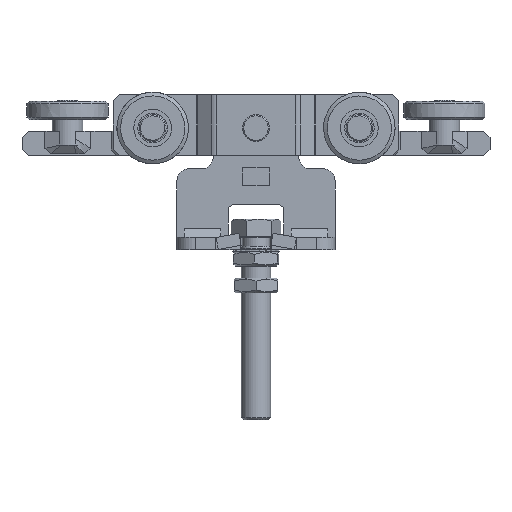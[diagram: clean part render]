
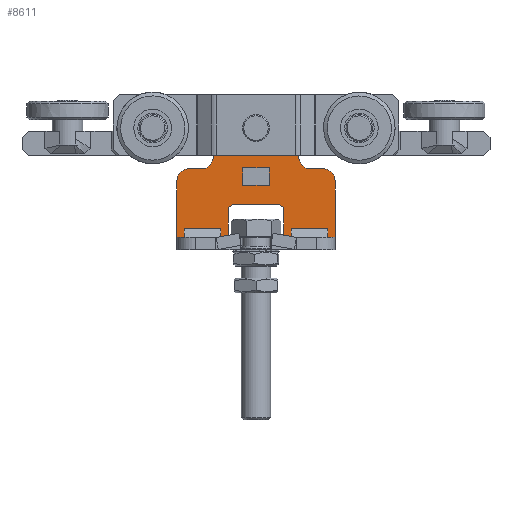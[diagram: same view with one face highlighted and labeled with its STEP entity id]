
A CAD part, front view. The second image highlights one B-rep face of the part: STEP entity #8611.
In plain terms, the highlighted planar face has unit normal (0, -1, 0) as drawn and (0, 0, 1) by its records, which use the part's own axes.
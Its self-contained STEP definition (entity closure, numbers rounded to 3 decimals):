
#342=FACE_BOUND('',#1731,.T.);
#343=FACE_BOUND('',#1732,.T.);
#623=CIRCLE('',#9171,8.65);
#625=CIRCLE('',#9174,90.);
#627=CIRCLE('',#9178,10.);
#629=CIRCLE('',#9182,10.);
#631=CIRCLE('',#9190,5.);
#633=CIRCLE('',#9194,5.);
#635=CIRCLE('',#9202,10.);
#637=CIRCLE('',#9206,10.);
#1200=FACE_OUTER_BOUND('',#1730,.T.);
#1730=EDGE_LOOP('',(#6220,#6221,#6222,#6223,#6224,#6225,#6226,#6227,#6228,
#6229,#6230,#6231,#6232,#6233,#6234,#6235,#6236,#6237,#6238,#6239,#6240,
#6241));
#1731=EDGE_LOOP('',(#6242,#6243,#6244,#6245));
#1732=EDGE_LOOP('',(#6246));
#2384=LINE('',#13075,#3123);
#2388=LINE('',#13083,#3127);
#2391=LINE('',#13089,#3130);
#2394=LINE('',#13094,#3133);
#2398=LINE('',#13113,#3137);
#2402=LINE('',#13125,#3141);
#2406=LINE('',#13137,#3145);
#2409=LINE('',#13143,#3148);
#2412=LINE('',#13149,#3151);
#2415=LINE('',#13155,#3154);
#2418=LINE('',#13161,#3157);
#2422=LINE('',#13173,#3161);
#2426=LINE('',#13185,#3165);
#2429=LINE('',#13191,#3168);
#2432=LINE('',#13197,#3171);
#2435=LINE('',#13203,#3174);
#2438=LINE('',#13209,#3177);
#2442=LINE('',#13221,#3181);
#2446=LINE('',#13232,#3185);
#3123=VECTOR('',#10381,14.5);
#3127=VECTOR('',#10387,22.);
#3130=VECTOR('',#10392,14.5);
#3133=VECTOR('',#10397,22.);
#3137=VECTOR('',#10417,43.416);
#3141=VECTOR('',#10429,10.);
#3145=VECTOR('',#10441,46.5);
#3148=VECTOR('',#10446,12.);
#3151=VECTOR('',#10451,10.);
#3154=VECTOR('',#10456,30.);
#3157=VECTOR('',#10461,32.);
#3161=VECTOR('',#10473,36.);
#3165=VECTOR('',#10485,32.);
#3168=VECTOR('',#10490,30.);
#3171=VECTOR('',#10495,10.);
#3174=VECTOR('',#10500,12.);
#3177=VECTOR('',#10505,46.5);
#3181=VECTOR('',#10517,10.);
#3185=VECTOR('',#10529,43.416);
#3831=VERTEX_POINT('',#13073);
#3832=VERTEX_POINT('',#13074);
#3835=VERTEX_POINT('',#13082);
#3837=VERTEX_POINT('',#13088);
#3839=VERTEX_POINT('',#13098);
#3841=VERTEX_POINT('',#13103);
#3842=VERTEX_POINT('',#13104);
#3845=VERTEX_POINT('',#13112);
#3847=VERTEX_POINT('',#13118);
#3849=VERTEX_POINT('',#13124);
#3851=VERTEX_POINT('',#13130);
#3853=VERTEX_POINT('',#13136);
#3855=VERTEX_POINT('',#13142);
#3857=VERTEX_POINT('',#13148);
#3859=VERTEX_POINT('',#13154);
#3861=VERTEX_POINT('',#13160);
#3863=VERTEX_POINT('',#13166);
#3865=VERTEX_POINT('',#13172);
#3867=VERTEX_POINT('',#13178);
#3869=VERTEX_POINT('',#13184);
#3871=VERTEX_POINT('',#13190);
#3873=VERTEX_POINT('',#13196);
#3875=VERTEX_POINT('',#13202);
#3877=VERTEX_POINT('',#13208);
#3879=VERTEX_POINT('',#13214);
#3881=VERTEX_POINT('',#13220);
#3883=VERTEX_POINT('',#13226);
#4708=EDGE_CURVE('',#3831,#3832,#2384,.T.);
#4712=EDGE_CURVE('',#3835,#3831,#2388,.T.);
#4715=EDGE_CURVE('',#3837,#3835,#2391,.T.);
#4718=EDGE_CURVE('',#3832,#3837,#2394,.T.);
#4720=EDGE_CURVE('',#3839,#3839,#623,.T.);
#4722=EDGE_CURVE('',#3841,#3842,#625,.T.);
#4726=EDGE_CURVE('',#3842,#3845,#2398,.T.);
#4729=EDGE_CURVE('',#3845,#3847,#627,.T.);
#4732=EDGE_CURVE('',#3847,#3849,#2402,.T.);
#4735=EDGE_CURVE('',#3849,#3851,#629,.T.);
#4738=EDGE_CURVE('',#3851,#3853,#2406,.T.);
#4741=EDGE_CURVE('',#3853,#3855,#2409,.T.);
#4744=EDGE_CURVE('',#3855,#3857,#2412,.T.);
#4747=EDGE_CURVE('',#3857,#3859,#2415,.T.);
#4750=EDGE_CURVE('',#3859,#3861,#2418,.T.);
#4753=EDGE_CURVE('',#3861,#3863,#631,.T.);
#4756=EDGE_CURVE('',#3863,#3865,#2422,.T.);
#4759=EDGE_CURVE('',#3865,#3867,#633,.T.);
#4762=EDGE_CURVE('',#3867,#3869,#2426,.T.);
#4765=EDGE_CURVE('',#3869,#3871,#2429,.T.);
#4768=EDGE_CURVE('',#3871,#3873,#2432,.T.);
#4771=EDGE_CURVE('',#3873,#3875,#2435,.T.);
#4774=EDGE_CURVE('',#3875,#3877,#2438,.T.);
#4777=EDGE_CURVE('',#3877,#3879,#635,.T.);
#4780=EDGE_CURVE('',#3879,#3881,#2442,.T.);
#4783=EDGE_CURVE('',#3881,#3883,#637,.T.);
#4786=EDGE_CURVE('',#3883,#3841,#2446,.T.);
#6220=ORIENTED_EDGE('',*,*,#4722,.F.);
#6221=ORIENTED_EDGE('',*,*,#4786,.F.);
#6222=ORIENTED_EDGE('',*,*,#4783,.F.);
#6223=ORIENTED_EDGE('',*,*,#4780,.F.);
#6224=ORIENTED_EDGE('',*,*,#4777,.F.);
#6225=ORIENTED_EDGE('',*,*,#4774,.F.);
#6226=ORIENTED_EDGE('',*,*,#4771,.F.);
#6227=ORIENTED_EDGE('',*,*,#4768,.F.);
#6228=ORIENTED_EDGE('',*,*,#4765,.F.);
#6229=ORIENTED_EDGE('',*,*,#4762,.F.);
#6230=ORIENTED_EDGE('',*,*,#4759,.F.);
#6231=ORIENTED_EDGE('',*,*,#4756,.F.);
#6232=ORIENTED_EDGE('',*,*,#4753,.F.);
#6233=ORIENTED_EDGE('',*,*,#4750,.F.);
#6234=ORIENTED_EDGE('',*,*,#4747,.F.);
#6235=ORIENTED_EDGE('',*,*,#4744,.F.);
#6236=ORIENTED_EDGE('',*,*,#4741,.F.);
#6237=ORIENTED_EDGE('',*,*,#4738,.F.);
#6238=ORIENTED_EDGE('',*,*,#4735,.F.);
#6239=ORIENTED_EDGE('',*,*,#4732,.F.);
#6240=ORIENTED_EDGE('',*,*,#4729,.F.);
#6241=ORIENTED_EDGE('',*,*,#4726,.F.);
#6242=ORIENTED_EDGE('',*,*,#4708,.T.);
#6243=ORIENTED_EDGE('',*,*,#4718,.T.);
#6244=ORIENTED_EDGE('',*,*,#4715,.T.);
#6245=ORIENTED_EDGE('',*,*,#4712,.T.);
#6246=ORIENTED_EDGE('',*,*,#4720,.T.);
#8291=PLANE('',#9210);
#8611=ADVANCED_FACE('',(#1200,#342,#343),#8291,.T.);
#9171=AXIS2_PLACEMENT_3D('',#13099,#10403,#10404);
#9174=AXIS2_PLACEMENT_3D('',#13105,#10409,#10410);
#9178=AXIS2_PLACEMENT_3D('',#13119,#10422,#10423);
#9182=AXIS2_PLACEMENT_3D('',#13131,#10434,#10435);
#9190=AXIS2_PLACEMENT_3D('',#13167,#10466,#10467);
#9194=AXIS2_PLACEMENT_3D('',#13179,#10478,#10479);
#9202=AXIS2_PLACEMENT_3D('',#13215,#10510,#10511);
#9206=AXIS2_PLACEMENT_3D('',#13227,#10522,#10523);
#9210=AXIS2_PLACEMENT_3D('',#13235,#10533,#10534);
#10381=DIRECTION('',(0.,-1.,0.));
#10387=DIRECTION('',(1.,0.,0.));
#10392=DIRECTION('',(0.,1.,0.));
#10397=DIRECTION('',(-1.,0.,0.));
#10403=DIRECTION('center_axis',(0.,0.,-1.));
#10404=DIRECTION('ref_axis',(-1.,0.,0.));
#10409=DIRECTION('center_axis',(0.,0.,-1.));
#10410=DIRECTION('ref_axis',(0.389,0.921,0.));
#10417=DIRECTION('',(0.,-1.,0.));
#10422=DIRECTION('center_axis',(0.,0.,1.));
#10423=DIRECTION('ref_axis',(1.,0.,0.));
#10429=DIRECTION('',(1.,0.,0.));
#10434=DIRECTION('center_axis',(0.,0.,-1.));
#10435=DIRECTION('ref_axis',(1.,0.,0.));
#10441=DIRECTION('',(0.,-1.,0.));
#10446=DIRECTION('',(-1.,0.,0.));
#10451=DIRECTION('',(0.,-1.,0.));
#10456=DIRECTION('',(-1.,0.,0.));
#10461=DIRECTION('',(0.,1.,0.));
#10466=DIRECTION('center_axis',(0.,0.,1.));
#10467=DIRECTION('ref_axis',(-1.,0.,0.));
#10473=DIRECTION('',(-1.,0.,0.));
#10478=DIRECTION('center_axis',(0.,0.,1.));
#10479=DIRECTION('ref_axis',(0.,-1.,0.));
#10485=DIRECTION('',(0.,-1.,0.));
#10490=DIRECTION('',(-1.,0.,0.));
#10495=DIRECTION('',(0.,1.,0.));
#10500=DIRECTION('',(-1.,0.,0.));
#10505=DIRECTION('',(0.,1.,0.));
#10510=DIRECTION('center_axis',(0.,0.,-1.));
#10511=DIRECTION('ref_axis',(0.,1.,0.));
#10517=DIRECTION('',(1.,0.,0.));
#10522=DIRECTION('center_axis',(0.,0.,1.));
#10523=DIRECTION('ref_axis',(0.,1.,0.));
#10529=DIRECTION('',(0.,1.,0.));
#10533=DIRECTION('center_axis',(0.,0.,1.));
#10534=DIRECTION('ref_axis',(1.,0.,0.));
#13073=CARTESIAN_POINT('',(11.,-32.75,10.));
#13074=CARTESIAN_POINT('',(11.,-47.25,10.));
#13075=CARTESIAN_POINT('',(11.,-39.942,10.));
#13082=CARTESIAN_POINT('',(-11.,-32.75,10.));
#13083=CARTESIAN_POINT('',(-5.5,-32.75,10.));
#13088=CARTESIAN_POINT('',(-11.,-47.25,10.));
#13089=CARTESIAN_POINT('',(-11.,-47.192,10.));
#13094=CARTESIAN_POINT('',(5.5,-47.25,10.));
#13098=CARTESIAN_POINT('',(8.65,0.,10.));
#13099=CARTESIAN_POINT('Origin',(0.,0.,10.));
#13103=CARTESIAN_POINT('',(-35.,19.916,10.));
#13104=CARTESIAN_POINT('',(35.,19.916,10.));
#13105=CARTESIAN_POINT('Origin',(0.,-63.,10.));
#13112=CARTESIAN_POINT('',(35.,-23.5,10.));
#13113=CARTESIAN_POINT('',(35.,-23.5,10.));
#13118=CARTESIAN_POINT('',(45.,-33.5,10.));
#13119=CARTESIAN_POINT('Origin',(45.,-23.5,10.));
#13124=CARTESIAN_POINT('',(55.,-33.5,10.));
#13125=CARTESIAN_POINT('',(55.,-33.5,10.));
#13130=CARTESIAN_POINT('',(65.,-43.5,10.));
#13131=CARTESIAN_POINT('Origin',(55.,-43.5,10.));
#13136=CARTESIAN_POINT('',(65.,-90.,10.));
#13137=CARTESIAN_POINT('',(65.,-90.,10.));
#13142=CARTESIAN_POINT('',(53.,-90.,10.));
#13143=CARTESIAN_POINT('',(53.,-90.,10.));
#13148=CARTESIAN_POINT('',(53.,-100.,10.));
#13149=CARTESIAN_POINT('',(53.,-100.,10.));
#13154=CARTESIAN_POINT('',(23.,-100.,10.));
#13155=CARTESIAN_POINT('',(23.,-100.,10.));
#13160=CARTESIAN_POINT('',(23.,-68.,10.));
#13161=CARTESIAN_POINT('',(23.,-68.,10.));
#13166=CARTESIAN_POINT('',(18.,-63.,10.));
#13167=CARTESIAN_POINT('Origin',(18.,-68.,10.));
#13172=CARTESIAN_POINT('',(-18.,-63.,10.));
#13173=CARTESIAN_POINT('',(-18.,-63.,10.));
#13178=CARTESIAN_POINT('',(-23.,-68.,10.));
#13179=CARTESIAN_POINT('Origin',(-18.,-68.,10.));
#13184=CARTESIAN_POINT('',(-23.,-100.,10.));
#13185=CARTESIAN_POINT('',(-23.,-100.,10.));
#13190=CARTESIAN_POINT('',(-53.,-100.,10.));
#13191=CARTESIAN_POINT('',(-53.,-100.,10.));
#13196=CARTESIAN_POINT('',(-53.,-90.,10.));
#13197=CARTESIAN_POINT('',(-53.,-90.,10.));
#13202=CARTESIAN_POINT('',(-65.,-90.,10.));
#13203=CARTESIAN_POINT('',(-65.,-90.,10.));
#13208=CARTESIAN_POINT('',(-65.,-43.5,10.));
#13209=CARTESIAN_POINT('',(-65.,-43.5,10.));
#13214=CARTESIAN_POINT('',(-55.,-33.5,10.));
#13215=CARTESIAN_POINT('Origin',(-55.,-43.5,10.));
#13220=CARTESIAN_POINT('',(-45.,-33.5,10.));
#13221=CARTESIAN_POINT('',(-45.,-33.5,10.));
#13226=CARTESIAN_POINT('',(-35.,-23.5,10.));
#13227=CARTESIAN_POINT('Origin',(-45.,-23.5,10.));
#13232=CARTESIAN_POINT('',(-35.,19.916,10.));
#13235=CARTESIAN_POINT('Origin',(0.,-47.134,
10.));
